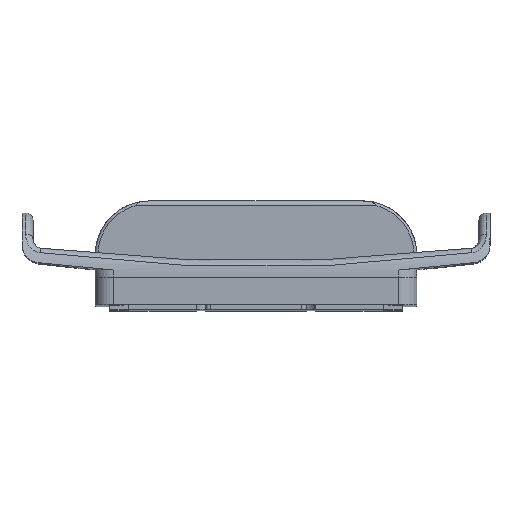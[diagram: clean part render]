
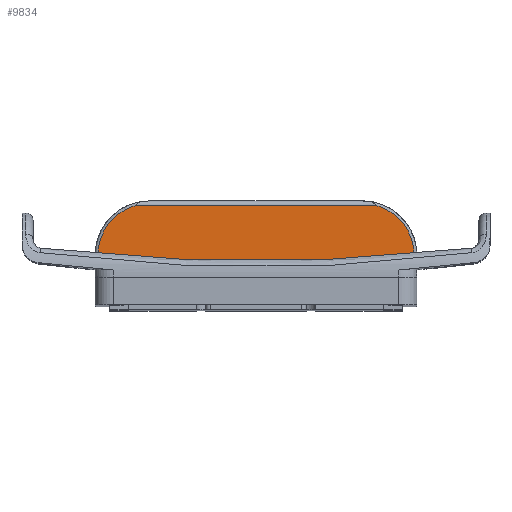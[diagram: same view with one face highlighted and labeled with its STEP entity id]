
A CAD part, top view. The second image highlights one B-rep face of the part: STEP entity #9834.
In plain terms, the highlighted planar face has unit normal (0, 0, 1).
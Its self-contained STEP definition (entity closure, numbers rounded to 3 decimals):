
#726 = DIRECTION ( 'NONE',  ( 0., 0., 1. ) ) ;
#817 = CARTESIAN_POINT ( 'NONE',  ( -13.01, 6.2, 1.6 ) ) ;
#944 = ORIENTED_EDGE ( 'NONE', *, *, #15603, .T. ) ;
#961 = AXIS2_PLACEMENT_3D ( 'NONE', #9844, #726, #6699 ) ;
#1462 = DIRECTION ( 'NONE',  ( -1., 0., 0. ) ) ;
#1565 = CARTESIAN_POINT ( 'NONE',  ( 36.566, 6.2, 1.6 ) ) ;
#1992 = VECTOR ( 'NONE', #17786, 1000. ) ;
#2183 = ORIENTED_EDGE ( 'NONE', *, *, #3930, .T. ) ;
#2316 = VERTEX_POINT ( 'NONE', #9813 ) ;
#2490 = DIRECTION ( 'NONE',  ( 0., 1., 0. ) ) ;
#2586 = LINE ( 'NONE', #7400, #3151 ) ;
#2675 = DIRECTION ( 'NONE',  ( 0., 1., 0. ) ) ;
#3060 = VERTEX_POINT ( 'NONE', #4424 ) ;
#3148 = LINE ( 'NONE', #17482, #1992 ) ;
#3151 = VECTOR ( 'NONE', #4354, 1000. ) ;
#3646 = AXIS2_PLACEMENT_3D ( 'NONE', #9803, #19822, #9910 ) ;
#3930 = EDGE_CURVE ( 'NONE', #8512, #20524, #9237, .T. ) ;
#3971 = CARTESIAN_POINT ( 'NONE',  ( -16.7, -0.104, 1.6 ) ) ;
#4354 = DIRECTION ( 'NONE',  ( 0., -1., 0. ) ) ;
#4382 = DIRECTION ( 'NONE',  ( 0., 1., 0. ) ) ;
#4424 = CARTESIAN_POINT ( 'NONE',  ( -17.2, 0.52, 1.6 ) ) ;
#5420 = ORIENTED_EDGE ( 'NONE', *, *, #15793, .T. ) ;
#5518 = ORIENTED_EDGE ( 'NONE', *, *, #5912, .T. ) ;
#5912 = EDGE_CURVE ( 'NONE', #6718, #2316, #13305, .T. ) ;
#6274 = AXIS2_PLACEMENT_3D ( 'NONE', #19962, #16832, #2490 ) ;
#6699 = DIRECTION ( 'NONE',  ( 0., 1., 0. ) ) ;
#6718 = VERTEX_POINT ( 'NONE', #817 ) ;
#7400 = CARTESIAN_POINT ( 'NONE',  ( -17.2, 6.2, 1.6 ) ) ;
#7477 = DIRECTION ( 'NONE',  ( 0., 0., -1. ) ) ;
#7546 = LINE ( 'NONE', #1565, #19840 ) ;
#8337 = EDGE_CURVE ( 'NONE', #20524, #13006, #20351, .T. ) ;
#8512 = VERTEX_POINT ( 'NONE', #17107 ) ;
#9022 = AXIS2_PLACEMENT_3D ( 'NONE', #9049, #7477, #20436 ) ;
#9049 = CARTESIAN_POINT ( 'NONE',  ( 36.566, 6.2, 1.6 ) ) ;
#9237 = CIRCLE ( 'NONE', #10239, 200. ) ;
#9529 = EDGE_CURVE ( 'NONE', #13006, #16844, #3148, .T. ) ;
#9639 = ORIENTED_EDGE ( 'NONE', *, *, #10238, .T. ) ;
#9803 = CARTESIAN_POINT ( 'NONE',  ( 16.7, -0.104, 1.6 ) ) ;
#9813 = CARTESIAN_POINT ( 'NONE',  ( -17.2, 0.767, 1.6 ) ) ;
#9834 = ADVANCED_FACE ( 'NONE', ( #14066 ), #15642, .F. ) ;
#9844 = CARTESIAN_POINT ( 'NONE',  ( 11.583, 0.767, 1.6 ) ) ;
#9910 = DIRECTION ( 'NONE',  ( 0., 1., 0. ) ) ;
#10058 = CARTESIAN_POINT ( 'NONE',  ( 17.2, 0.767, 1.6 ) ) ;
#10238 = EDGE_CURVE ( 'NONE', #16844, #14183, #10990, .T. ) ;
#10239 = AXIS2_PLACEMENT_3D ( 'NONE', #12101, #16916, #2675 ) ;
#10393 = EDGE_CURVE ( 'NONE', #3060, #8512, #16391, .T. ) ;
#10421 = ORIENTED_EDGE ( 'NONE', *, *, #8337, .T. ) ;
#10990 = CIRCLE ( 'NONE', #961, 5.617 ) ;
#11313 = CARTESIAN_POINT ( 'NONE',  ( 17.2, 0.52, 1.6 ) ) ;
#12101 = CARTESIAN_POINT ( 'NONE',  ( 0., 200., 1.6 ) ) ;
#13006 = VERTEX_POINT ( 'NONE', #11313 ) ;
#13305 = CIRCLE ( 'NONE', #6274, 5.617 ) ;
#13482 = CARTESIAN_POINT ( 'NONE',  ( 16.633, 0.693, 1.6 ) ) ;
#14066 = FACE_OUTER_BOUND ( 'NONE', #17801, .T. ) ;
#14183 = VERTEX_POINT ( 'NONE', #17080 ) ;
#14344 = AXIS2_PLACEMENT_3D ( 'NONE', #3971, #17155, #4382 ) ;
#14738 = ORIENTED_EDGE ( 'NONE', *, *, #10393, .T. ) ;
#15603 = EDGE_CURVE ( 'NONE', #14183, #6718, #7546, .T. ) ;
#15642 = PLANE ( 'NONE',  #9022 ) ;
#15793 = EDGE_CURVE ( 'NONE', #2316, #3060, #2586, .T. ) ;
#16245 = ORIENTED_EDGE ( 'NONE', *, *, #9529, .T. ) ;
#16391 = CIRCLE ( 'NONE', #14344, 0.8 ) ;
#16832 = DIRECTION ( 'NONE',  ( 0., 0., 1. ) ) ;
#16844 = VERTEX_POINT ( 'NONE', #10058 ) ;
#16916 = DIRECTION ( 'NONE',  ( 0., 0., 1. ) ) ;
#17080 = CARTESIAN_POINT ( 'NONE',  ( 13.01, 6.2, 1.6 ) ) ;
#17107 = CARTESIAN_POINT ( 'NONE',  ( -16.633, 0.693, 1.6 ) ) ;
#17155 = DIRECTION ( 'NONE',  ( 0., 0., -1. ) ) ;
#17482 = CARTESIAN_POINT ( 'NONE',  ( 17.2, 6.2, 1.6 ) ) ;
#17786 = DIRECTION ( 'NONE',  ( 0., 1., 0. ) ) ;
#17801 = EDGE_LOOP ( 'NONE', ( #10421, #16245, #9639, #944, #5518, #5420, #14738, #2183 ) ) ;
#19822 = DIRECTION ( 'NONE',  ( 0., 0., -1. ) ) ;
#19840 = VECTOR ( 'NONE', #1462, 1000. ) ;
#19962 = CARTESIAN_POINT ( 'NONE',  ( -11.583, 0.767, 1.6 ) ) ;
#20351 = CIRCLE ( 'NONE', #3646, 0.8 ) ;
#20436 = DIRECTION ( 'NONE',  ( 0., 1., 0. ) ) ;
#20524 = VERTEX_POINT ( 'NONE', #13482 ) ;
